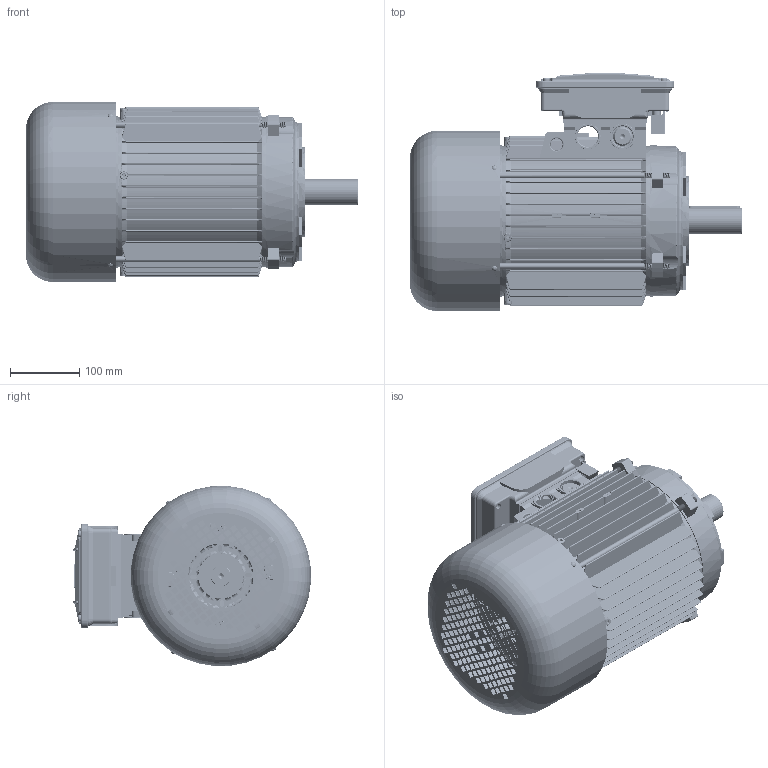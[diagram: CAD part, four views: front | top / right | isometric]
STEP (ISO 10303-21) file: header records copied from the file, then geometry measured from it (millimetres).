
FILE_DESCRIPTION (( 'STEP AP214' ), '1' );
FILE_NAME ('M24IC0010.STEP', '2019-03-16T09:43:02', ( '' ), ( '' ), 'SwSTEP 2.0', 'SolidWorks 2018', '' );
FILE_SCHEMA (( 'AUTOMOTIVE_DESIGN' ));
Length unit declared in the file: millimetre
Products named in the file (18): Guarnizione Basetta BA 132 - DGBU0202; Vite Autofilettante Testa Bombata 4,8x9,5; Pipetta passafilo; Scatola per Morsettiera BA 132 - DGBQ0102; Tirante SM 132 S - DGCQ0003; Vite testa rotonda M3; Cuffia SM 132; Scudo Lato Comando B3 BA 132; Chiavetta 132; Albero SM 132 S; Scudo a Flangia B14 BA 132; Scatola BA 132 - Completa; Carcassa 132 S B5; Vite M5x20; Coperchio Scatola Morsettiera BA 132 - DGBR0002; M24IC0010; Guarnizione Coperchio Morsettiera Doppia Scatola BA 132 - DGBS0102; Piastra stringi Pipetta BA 132 - DGBA0210 bis
Assembly tree (27 placements, depth 3):
  M24IC0010
    Carcassa 132 S B5
    Scudo a Flangia B14 BA 132
    Albero SM 132 S
    Chiavetta 132
    Scudo Lato Comando B3 BA 132
    Cuffia SM 132
    Vite testa rotonda M3  x4
    Tirante SM 132 S - DGCQ0003  x4
    Scatola BA 132 - Completa
      Scatola per Morsettiera BA 132 - DGBQ0102
      Pipetta passafilo  x2
      Vite Autofilettante Testa Bombata 4,8x9,5
      Guarnizione Basetta BA 132 - DGBU0202
      Piastra stringi Pipetta BA 132 - DGBA0210 bis
      Guarnizione Coperchio Morsettiera Doppia Scatola BA 132 - DGBS0102
      Coperchio Scatola Morsettiera BA 132 - DGBR0002
      Vite M5x20  x4
Bounding box: 478 x 342.57 x 259.36 mm (x, y, z)
Volume: 3804915.2 mm3; surface area: 1535719.2 mm2
Topology: 26 solids, 26 shells, 5255 faces, 14221 edges, 9055 vertices
Faces by surface type: cylinder 2393, plane 1627, bspline 451, cone 406, torus 358, sphere 20
Entity records: 185530 total; most frequent: CARTESIAN_POINT 78520, ORIENTED_EDGE 23478, DIRECTION 20806, EDGE_CURVE 11739, AXIS2_PLACEMENT_3D 7630, VERTEX_POINT 7486, LINE 5546, VECTOR 5546
